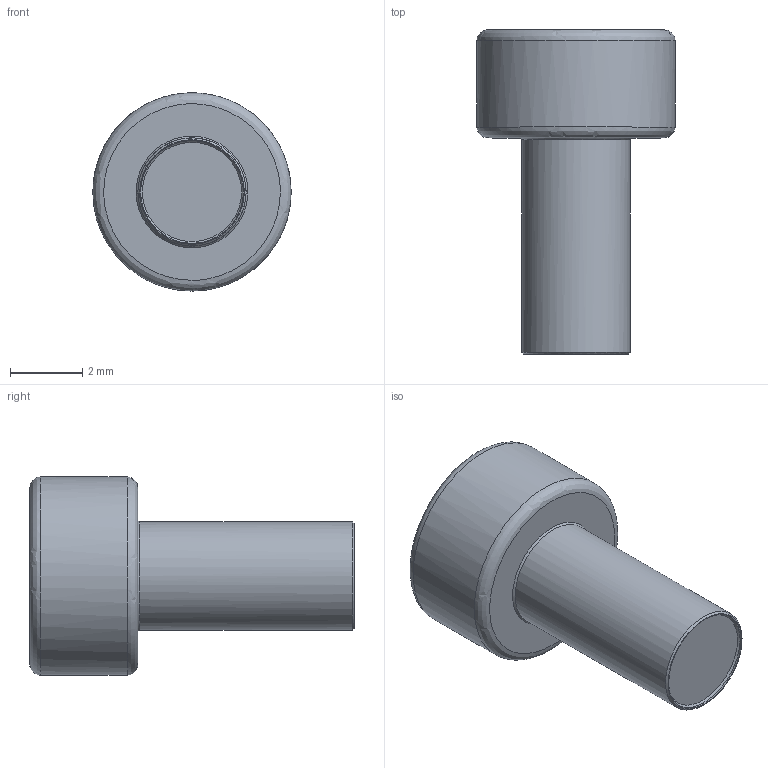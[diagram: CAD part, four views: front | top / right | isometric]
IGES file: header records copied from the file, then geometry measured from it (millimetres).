
Global section: file name: L Bolt M3 x 6 Stainless Steel; native system: Autodesk Inventor 2020; preprocessor: unknown; author: Thompson Ray; date: 20230123.195347; units: millimetre
Bounding box: 5.5 x 9 x 5.5 mm (x, y, z)
Volume: 100.7 mm3; surface area: 169.1 mm2
Topology: 1 solids, 1 shells, 31 faces, 71 edges, 45 vertices
Faces by surface type: bspline 31
